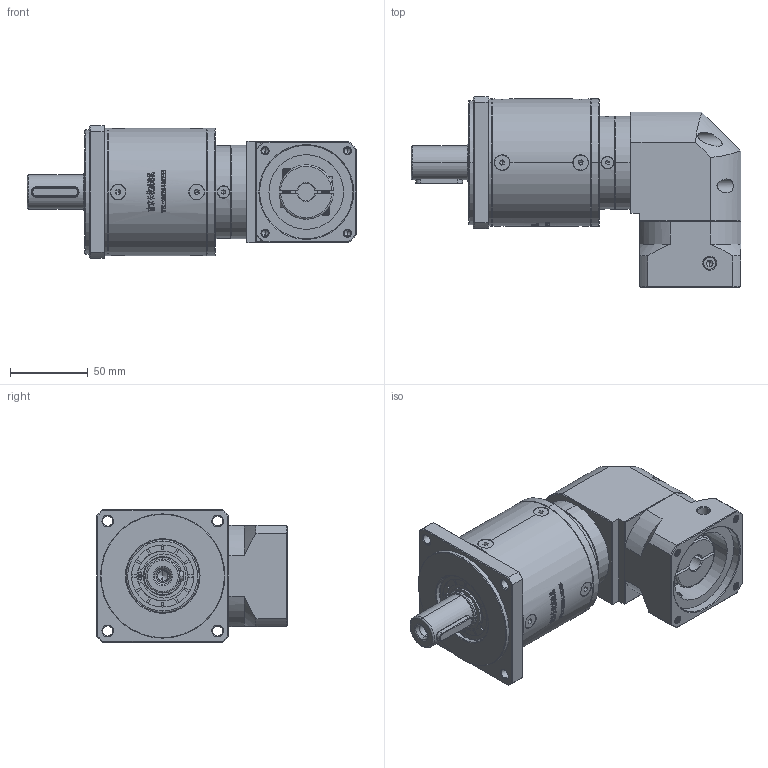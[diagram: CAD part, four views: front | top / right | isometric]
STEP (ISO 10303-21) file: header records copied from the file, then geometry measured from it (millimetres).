
FILE_DESCRIPTION (( 'STEP AP214' ), '1' );
FILE_NAME ('ZFR80-D22-L3-11-60-75-M5.step', '2022-05-08T14:55:49', ( '' ), ( 'Microsoft' ), 'SwSTEP 2.0', 'SolidWorks 2016', '' );
FILE_SCHEMA (( 'AUTOMOTIVE_DESIGN' ));
Length unit declared in the file: millimetre
Products named in the file (1): ZFR80-D22-L3-11-60-75-M5
Bounding box: 212 x 122.7 x 85 mm (x, y, z)
Volume: 905590.3 mm3; surface area: 109335.4 mm2
Topology: 17 solids, 18 shells, 3077 faces, 8187 edges, 5267 vertices
Faces by surface type: plane 1601, bspline 620, cylinder 468, cone 380, torus 8
Entity records: 165984 total; most frequent: CARTESIAN_POINT 61019, ORIENTED_EDGE 16282, DIRECTION 12357, EDGE_CURVE 8141, VERTEX_POINT 5267, LINE 4987, VECTOR 4987, AXIS2_PLACEMENT_3D 3685
